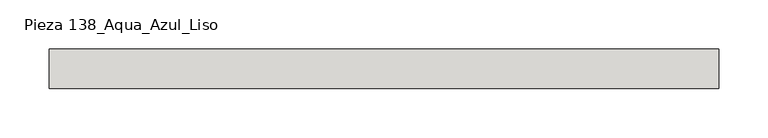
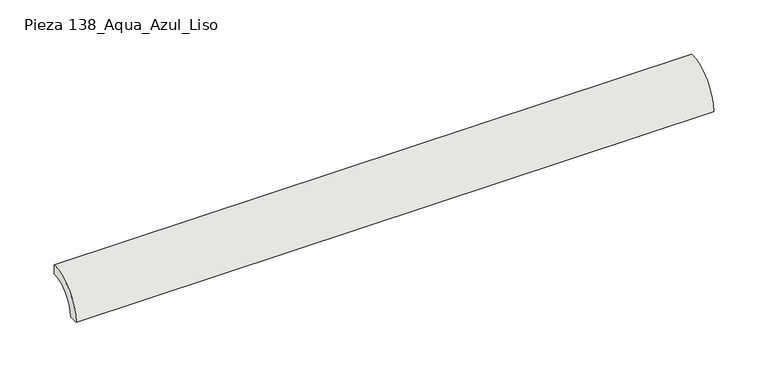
"""IFC4 building model written with IfcOpenShell, lengths in millimetres: slab geometry, ROSA GRES_138 : Pieza 138_Aqua_Azul_Liso."""

from ifc_helpers import new_model, si_unit, point, frame, frame_2d, origin, origin_2d, place, context, project, spatial, polyline, circle_curve, trimmed, segment, composite_curve, outline, extrude, source, transform, mapped, element, save


def pieza_138_aqua_azul_liso_3f5a14d7(model_context):
    return source(origin(), model_context, "Body", "SweptSolid", [
        extrude(outline(composite_curve([segment(polyline([(0.0, 40.0), (0.0, 30.0265886)]), True, "CONTINUOUS"), segment(trimmed(circle_curve(frame_2d((-0.0044453, 0.0044453)), 30.0221435), [point((0.0, 30.0265886))], [point((-30.0265886, 0.0))], True, "CARTESIAN"), True, "CONTINUOUS"), segment(polyline([(-30.0265886, 0.0), (-40.0, 0.0)]), True, "CONTINUOUS"), segment(trimmed(circle_curve(origin_2d(), 40.0), [point((-40.0, 0.0))], [point((0.0, 40.0))], False, "CARTESIAN"), True, "CONTINUOUS")], self_intersect=False)), frame((0.0, 0.0, 0.0), z_axis=(1.0, 0.0, 0.0), x_axis=(0.0, 1.0, 0.0)), (0.0, 0.0, 1.0), 677.0963364),
    ])


if __name__ == "__main__":
    model = new_model("IFC4")
    model_context = context("Model", 3, world=origin())
    ifc_project = project(units=[si_unit("LENGTHUNIT", "METRE", prefix="MILLI")], contexts=[model_context])
    site = spatial("IfcSite", under=ifc_project)
    building = spatial("IfcBuilding", under=site)
    placement = place(None, origin())
    pieza_138_aqua_azul_liso_shape = pieza_138_aqua_azul_liso_3f5a14d7(model_context)
    element("IfcSlab", 1, ObjectType="ROSA GRES_138 : Pieza 138_Aqua_Azul_Liso", at=placement, inside=building, context=model_context, shape_type="MappedRepresentation", body=[
        mapped(pieza_138_aqua_azul_liso_shape, transform((0.0, 0.0, 0.0), x_axis=(1.0, 0.0, 0.0), y_axis=(0.0, 1.0, 0.0), z_axis=(0.0, 0.0, 1.0))),
    ])
    save(model, "model.ifc")
